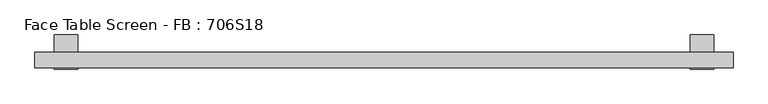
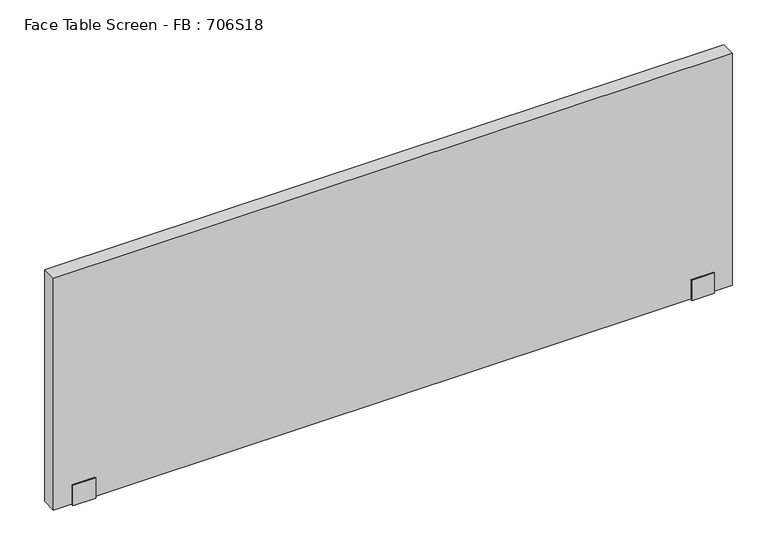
"""IFC4 building model written with IfcOpenShell, lengths in millimetres: furniture geometry, Face Table Screen - FB : 706S18."""

import ifcopenshell
import ifcopenshell.guid

model = None  # the IFC model being written
_history = None  # IfcOwnerHistory: only IFC2X3 demands one
_inside = {}  # id of a spatial element -> (the spatial element, [elements in it])
_under = {}  # id of a project, library or spatial element -> (it, [spatial elements below it])
_declared = {}  # id of a project -> (the project, [libraries it declares])
_typed = {}  # id of a type object -> (the type object, [elements of that type])
_made_of = {}  # id of a material, layer set ... -> (it, [elements and type objects made of it])


def new_model(schema):
    """Start an empty IFC model of exactly this schema.

    Asked for "IFC4X3", IfcOpenShell would pick the latest addendum, in which some entities
    have other attributes; the version numbers below select the first issue.
    IFC2X3 requires an IfcOwnerHistory on every rooted entity: one is made here for all.
    """
    global model, _history
    if schema == "IFC4X3":
        model = ifcopenshell.file(schema_version=(4, 3, 0, 0))
    else:
        model = ifcopenshell.file(schema=schema)
    _inside.clear()
    _under.clear()
    _declared.clear()
    _typed.clear()
    _made_of.clear()
    _history = None
    if model.schema == "IFC2X3":
        org = make("IfcOrganization", Name="unknown")
        user = make(
            "IfcPersonAndOrganization",
            ThePerson=make("IfcPerson", FamilyName="unknown"),
            TheOrganization=org,
        )
        app = make(
            "IfcApplication",
            ApplicationDeveloper=org,
            Version="unknown",
            ApplicationFullName="unknown",
            ApplicationIdentifier="unknown",
        )
        _history = make(
            "IfcOwnerHistory",
            OwningUser=user,
            OwningApplication=app,
            ChangeAction="ADDED",
            CreationDate=0,
        )
    return model


def make(cls, **values):
    """One entity of the class cls with the attributes given. An attribute that is None is left unset."""
    return model.create_entity(
        cls, **{name: value for name, value in values.items() if value is not None}
    )


def rooted(cls, **values):
    """An entity with a GlobalId (a new one), such as an element, a storey or a relation."""
    return make(cls, GlobalId=ifcopenshell.guid.new(), OwnerHistory=_history, **values)


def si_unit(unit_type, name, prefix=None):
    """IfcSIUnit, for example si_unit("LENGTHUNIT", "METRE", prefix="MILLI")."""
    return make("IfcSIUnit", UnitType=unit_type, Prefix=prefix, Name=name)


def assignment(units):
    """IfcUnitAssignment: the units of a project."""
    return None if units is None else make("IfcUnitAssignment", Units=units)


def point(xyz):
    """IfcCartesianPoint."""
    return None if xyz is None else make("IfcCartesianPoint", Coordinates=xyz)


def direction(xyz):
    """IfcDirection."""
    return None if xyz is None else make("IfcDirection", DirectionRatios=xyz)


def frame(location, z_axis=None, x_axis=None):
    """IfcAxis2Placement3D, a coordinate frame: its origin and axes. An axis left out is left unset."""
    return make(
        "IfcAxis2Placement3D",
        Location=point(location),
        Axis=direction(z_axis),
        RefDirection=direction(x_axis),
    )


def origin():
    """The frame at (0, 0, 0) with its axes left unset."""
    return frame((0.0, 0.0, 0.0))


def place(relative_to, where):
    """IfcLocalPlacement: puts the frame where relative to a parent placement (None: the world)."""
    return make(
        "IfcLocalPlacement", PlacementRelTo=relative_to, RelativePlacement=where
    )


def context(
    kind, dimensions, precision=None, world=None, true_north=None, identifier=None
):
    """IfcGeometricRepresentationContext, for example the 3D "Model" context."""
    return make(
        "IfcGeometricRepresentationContext",
        ContextIdentifier=identifier,
        ContextType=kind,
        CoordinateSpaceDimension=dimensions,
        Precision=precision,
        WorldCoordinateSystem=world,
        TrueNorth=true_north,
    )


def project(units=None, contexts=None):
    """IfcProject with its units and contexts."""
    return rooted(
        "IfcProject",
        Name="project",
        RepresentationContexts=contexts,
        UnitsInContext=assignment(units),
    )


def spatial(cls, under=None, at=None, **own):
    """A site, building, storey or space (cls), placed at a placement, below another one or the project."""
    s = rooted(cls, ObjectPlacement=at, **own)
    if under is not None:
        _under.setdefault(under.id(), (under, []))[1].append(s)
    return s


def polyline(points):
    """IfcPolyline through the points."""
    return make("IfcPolyline", Points=[point(p) for p in points])


def outline(outer, holes=None, kind="AREA"):
    """IfcArbitraryClosedProfileDef: a profile drawn as a closed curve; with holes, ...WithVoids."""
    if holes is None:
        return make("IfcArbitraryClosedProfileDef", ProfileType=kind, OuterCurve=outer)
    return make(
        "IfcArbitraryProfileDefWithVoids",
        ProfileType=kind,
        OuterCurve=outer,
        InnerCurves=holes,
    )


def extrude(swept, where, along, depth):
    """IfcExtrudedAreaSolid: the profile swept, set in the frame where, extruded along a direction by depth."""
    return make(
        "IfcExtrudedAreaSolid",
        SweptArea=swept,
        Position=where,
        ExtrudedDirection=direction(along),
        Depth=depth,
    )


def shape(context_of_items, identifier, shape_type, items):
    """IfcShapeRepresentation: the items that make up one representation, for example the "Body"."""
    return make(
        "IfcShapeRepresentation",
        ContextOfItems=context_of_items,
        RepresentationIdentifier=identifier,
        RepresentationType=shape_type,
        Items=items,
    )


def source(mapping_origin, context_of_items, identifier, shape_type, items):
    """IfcRepresentationMap: a shape defined once, which mapped items show again and again."""
    return make(
        "IfcRepresentationMap",
        MappingOrigin=mapping_origin,
        MappedRepresentation=shape(context_of_items, identifier, shape_type, items),
    )


def transform(
    local_origin,
    x_axis=None,
    y_axis=None,
    z_axis=None,
    scale=None,
    scale2=None,
    scale3=None,
    uniform=True,
):
    """IfcCartesianTransformationOperator3D, or its non-uniform kind. x_axis, y_axis, z_axis: its Axis1, 2, 3."""
    if uniform:
        return make(
            "IfcCartesianTransformationOperator3D",
            Axis1=direction(x_axis),
            Axis2=direction(y_axis),
            LocalOrigin=point(local_origin),
            Scale=scale,
            Axis3=direction(z_axis),
        )
    return make(
        "IfcCartesianTransformationOperator3DnonUniform",
        Axis1=direction(x_axis),
        Axis2=direction(y_axis),
        LocalOrigin=point(local_origin),
        Scale=scale,
        Axis3=direction(z_axis),
        Scale2=scale2,
        Scale3=scale3,
    )


def mapped(mapping_source, mapping_target):
    """IfcMappedItem: shows the shape of a source again, moved by a transform."""
    return make(
        "IfcMappedItem", MappingSource=mapping_source, MappingTarget=mapping_target
    )


def made_of(thing, what):
    """Note that an element or type object is made of a material, layer set ...; save() writes the relation."""
    if what is not None:
        _made_of.setdefault(what.id(), (what, []))[1].append(thing)
    return thing


def element(
    cls,
    number,
    at=None,
    inside=None,
    cuts=None,
    type_object=None,
    material=None,
    context=None,
    identifier="Body",
    shape_type=None,
    held_by="IfcProductDefinitionShape",
    body=None,
    shapes=None,
    **own,
):
    """One element of the class cls, such as IfcWall. Its Tag is "e" and its number.

    at: its placement. inside: the storey or other place that contains it. cuts: it is an
    opening in that element (IfcRelVoidsElement). A single representation is given by context,
    identifier, shape_type and body (its items); several are given by shapes. held_by: the class
    of the entity that holds the representations. save() writes the other relations.
    """
    e = rooted(cls, Tag="e%d" % number, ObjectPlacement=at, **own)
    if body is not None:
        shapes = [shape(context, identifier, shape_type, body)]
    if shapes is not None:
        e.Representation = make(held_by, Representations=shapes)
    if inside is not None:
        _inside.setdefault(inside.id(), (inside, []))[1].append(e)
    if cuts is not None:
        rooted(
            "IfcRelVoidsElement", RelatingBuildingElement=cuts, RelatedOpeningElement=e
        )
    if type_object is not None:
        _typed.setdefault(type_object.id(), (type_object, []))[1].append(e)
    return made_of(e, material)


def aggregate(whole, parts):
    """IfcRelAggregates: a whole, such as a stair, and the parts it consists of."""
    return rooted("IfcRelAggregates", RelatingObject=whole, RelatedObjects=parts)


def save(model, path):
    """Write the relations noted so far, then the file.

    IfcRelAggregates (storeys below a building ...), IfcRelContainedInSpatialStructure (elements
    in a storey), IfcRelDefinesByType, IfcRelAssociatesMaterial and IfcRelDeclares: one each for
    every whole, place, type object, material and project.
    """
    for whole, parts in _under.values():
        aggregate(whole, parts)
    for where, things in _inside.values():
        rooted(
            "IfcRelContainedInSpatialStructure",
            RelatedElements=things,
            RelatingStructure=where,
        )
    for kind, things in _typed.values():
        rooted("IfcRelDefinesByType", RelatedObjects=things, RelatingType=kind)
    for what, things in _made_of.values():
        rooted("IfcRelAssociatesMaterial", RelatedObjects=things, RelatingMaterial=what)
    for by, libraries in _declared.values():
        rooted("IfcRelDeclares", RelatingContext=by, RelatedDefinitions=libraries)
    model.write(path)


def face_table_screen_fb_706s18_e1da7d5a(model_context):
    return source(origin(), model_context, "Body", "SweptSolid", [
        extrude(outline(polyline([(-42.9999947, -256.0), (-42.9999997, -199.0433898), (-40.0, -199.0433898), (-40.0, -253.0), (0.0, -253.0), (0.0, -22.0), (45.0, -22.0), (45.0, -25.0433898), (3.0000062, -25.0433898), (2.9999947, -256.0), (-42.9999947, -256.0)])), frame((809.9863751, 0.0, 0.0), z_axis=(1.0, 0.0, 0.0), x_axis=(0.0, 1.0, 0.0)), (0.0, 0.0, 1.0), 60.0),
        extrude(outline(polyline([(-42.9999947, -256.0), (-42.9999997, -199.0433898), (-40.0, -199.0433898), (-40.0, -253.0), (0.0, -253.0), (0.0, -22.0), (45.0, -22.0), (45.0, -25.0433898), (3.0000062, -25.0433898), (2.9999947, -256.0), (-42.9999947, -256.0)])), frame((-830.0136249, 0.0, 0.0), z_axis=(1.0, 0.0, 0.0), x_axis=(0.0, 1.0, 0.0)), (0.0, 0.0, 1.0), 60.0),
        extrude(outline(polyline([(919.9863751, -40.0), (-880.0136249, -40.0), (-880.0136249, 0.0), (919.9863751, 0.0), (919.9863751, -40.0)])), frame((0.0, 0.0, -253.0), z_axis=(0.0, 0.0, 1.0), x_axis=(1.0, 0.0, 0.0)), (0.0, 0.0, 1.0), 650.0),
    ])


if __name__ == "__main__":
    model = new_model("IFC4")
    model_context = context("Model", 3, world=origin())
    ifc_project = project(units=[si_unit("LENGTHUNIT", "METRE", prefix="MILLI")], contexts=[model_context])
    site = spatial("IfcSite", under=ifc_project)
    building = spatial("IfcBuilding", under=site)
    placement = place(None, origin())
    face_table_screen_fb_706s18_shape = face_table_screen_fb_706s18_e1da7d5a(model_context)
    element("IfcFurniture", 1, ObjectType="Face Table Screen - FB : 706S18", at=placement, inside=building, context=model_context, shape_type="MappedRepresentation", body=[
        mapped(face_table_screen_fb_706s18_shape, transform((0.0, 0.0, 0.0), x_axis=(1.0, 0.0, 0.0), y_axis=(0.0, 1.0, 0.0), z_axis=(0.0, 0.0, 1.0))),
    ])
    save(model, "model.ifc")
